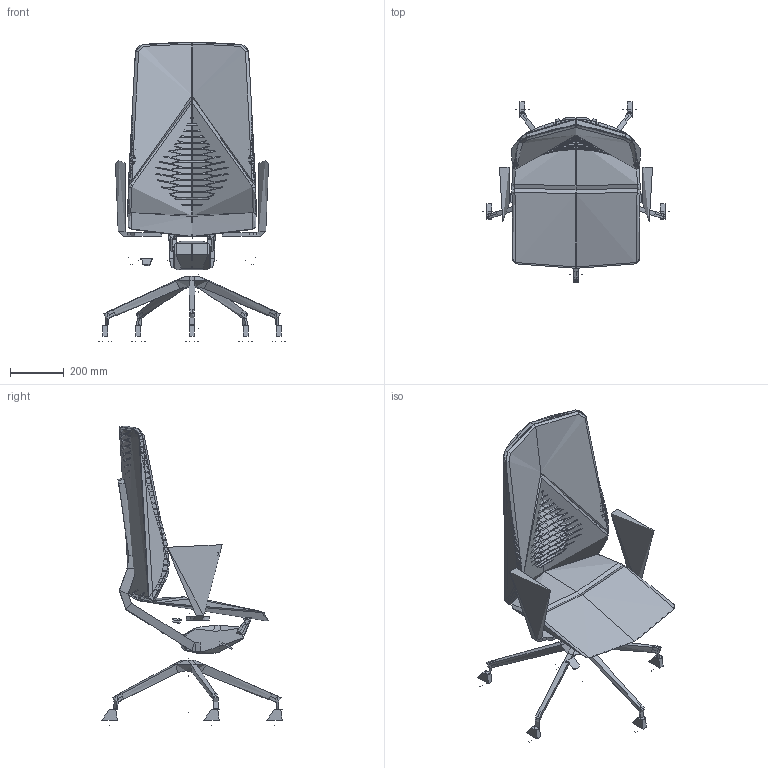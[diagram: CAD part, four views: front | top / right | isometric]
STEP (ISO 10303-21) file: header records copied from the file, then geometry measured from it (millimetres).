
FILE_DESCRIPTION(/* description */ (''),/* implementation_level */ '2;1');
FILE_NAME(/* name */ 'FollowMe 450-SYQ',/* time_stamp */ '2023-03-20T13:33:22+01:00',/* author */ (''),/* organization */ (''),/* preprocessor_version */ 'ST-DEVELOPER v16.5',/* originating_system */ 'Rhino 7.27',/* authorisation */ '');
FILE_SCHEMA (('CONFIG_CONTROL_DESIGN'));
Products named in the file (1): Document
Bounding box: 696.72 x 672.99 x 1118.31 mm (x, y, z)
Volume: 2603334.1 mm3; surface area: 3435853.1 mm2
Topology: 18 solids, 68 shells, 3137 faces, 9075 edges, 5961 vertices
Faces by surface type: plane 2371, bspline 674, cylinder 92
Full cylindrical faces by diameter (mm): 12 x4, 18 x2, 20 x4, 25 x3, 28 x1, 30 x3, 32 x2, 45 x1, 50 x4, 60 x10
Entity records: 217262 total; most frequent: CARTESIAN_POINT 158108, ORIENTED_EDGE 17719, EDGE_CURVE 9069, B_SPLINE_CURVE_WITH_KNOTS 8433, VERTEX_POINT 5959, EDGE_LOOP 3353, ADVANCED_FACE 3137, FACE_OUTER_BOUND 3137
